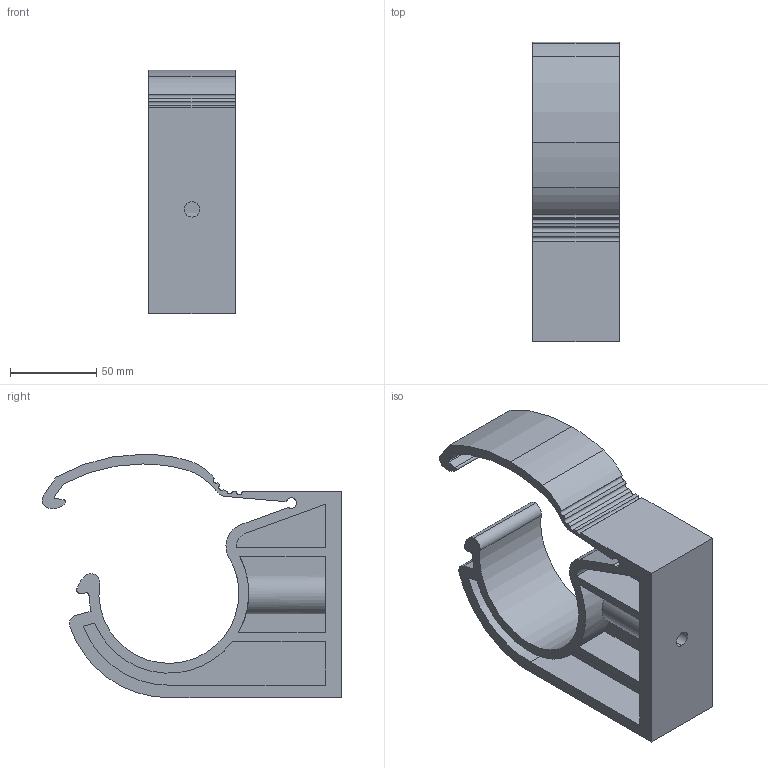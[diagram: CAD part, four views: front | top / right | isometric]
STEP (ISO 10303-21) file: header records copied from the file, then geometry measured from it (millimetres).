
FILE_DESCRIPTION (( 'STEP AP203' ), '1' );
FILE_NAME ('DIRFEM8080CF.STEP', '2014-05-27T07:24:52', ( '' ), ( '' ), 'SwSTEP 2.0', 'SolidWorks 2013', '' );
FILE_SCHEMA (( 'CONFIG_CONTROL_DESIGN' ));
Length unit declared in the file: millimetre
Products named in the file (1): DIRFEM8080CF
Bounding box: 50 x 173.27 x 140.74 mm (x, y, z)
Volume: 295746.6 mm3; surface area: 99607 mm2
Topology: 1 solids, 1 shells, 104 faces, 282 edges, 188 vertices
Faces by surface type: plane 56, cylinder 48
Entity records: 3552 total; most frequent: CARTESIAN_POINT 754, DIRECTION 582, ORIENTED_EDGE 564, EDGE_CURVE 282, AXIS2_PLACEMENT_3D 199, VERTEX_POINT 188, VECTOR 184, LINE 184
